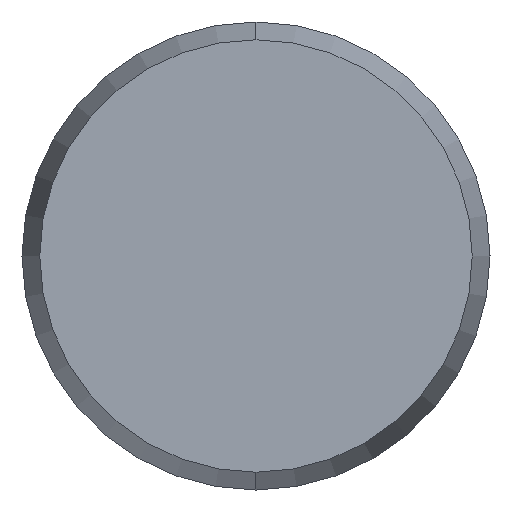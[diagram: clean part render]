
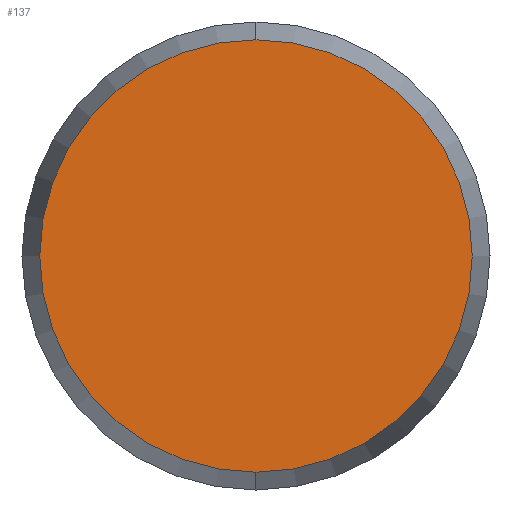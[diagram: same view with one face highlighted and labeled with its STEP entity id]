
A CAD part, left-side view. The second image highlights one B-rep face of the part: STEP entity #137.
In plain terms, the highlighted planar face has unit normal (-1, 0, 0).
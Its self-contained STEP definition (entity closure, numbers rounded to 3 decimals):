
#90 = VERTEX_POINT ( 'NONE', #183 ) ;
#92 = VERTEX_POINT ( 'NONE', #180 ) ;
#98 = EDGE_CURVE ( 'NONE', #92, #90, #157, .T. ) ;
#124 = ORIENTED_EDGE ( 'NONE', *, *, #98, .F. ) ;
#132 = ORIENTED_EDGE ( 'NONE', *, *, #134, .F. ) ;
#134 = EDGE_CURVE ( 'NONE', #90, #92, #236, .T. ) ;
#137 = ADVANCED_FACE ( 'NONE', ( #243 ), #242, .F. ) ;
#138 = EDGE_LOOP ( 'NONE', ( #124, #132 ) ) ;
#156 = AXIS2_PLACEMENT_3D ( 'NONE', #170, #163, #162 ) ;
#157 = CIRCLE ( 'NONE', #156, 5.544 ) ;
#162 = DIRECTION ( 'NONE',  ( 0., 0., -1. ) ) ;
#163 = DIRECTION ( 'NONE',  ( 1., 0., 0. ) ) ;
#170 = CARTESIAN_POINT ( 'NONE',  ( -22.5, 0., 0. ) ) ;
#180 = CARTESIAN_POINT ( 'NONE',  ( -22.5, 0., 5.544 ) ) ;
#183 = CARTESIAN_POINT ( 'NONE',  ( -22.5, 0., -5.544 ) ) ;
#235 = AXIS2_PLACEMENT_3D ( 'NONE', #245, #241, #244 ) ;
#236 = CIRCLE ( 'NONE', #235, 5.544 ) ;
#237 = DIRECTION ( 'NONE',  ( 0., 0., -1. ) ) ;
#238 = DIRECTION ( 'NONE',  ( 1., 0., 0. ) ) ;
#239 = CARTESIAN_POINT ( 'NONE',  ( -22.5, 0., 0. ) ) ;
#241 = DIRECTION ( 'NONE',  ( 1., 0., 0. ) ) ;
#242 = PLANE ( 'NONE',  #246 ) ;
#243 = FACE_OUTER_BOUND ( 'NONE', #138, .T. ) ;
#244 = DIRECTION ( 'NONE',  ( 0., 0., -1. ) ) ;
#245 = CARTESIAN_POINT ( 'NONE',  ( -22.5, 0., 0. ) ) ;
#246 = AXIS2_PLACEMENT_3D ( 'NONE', #239, #238, #237 ) ;
